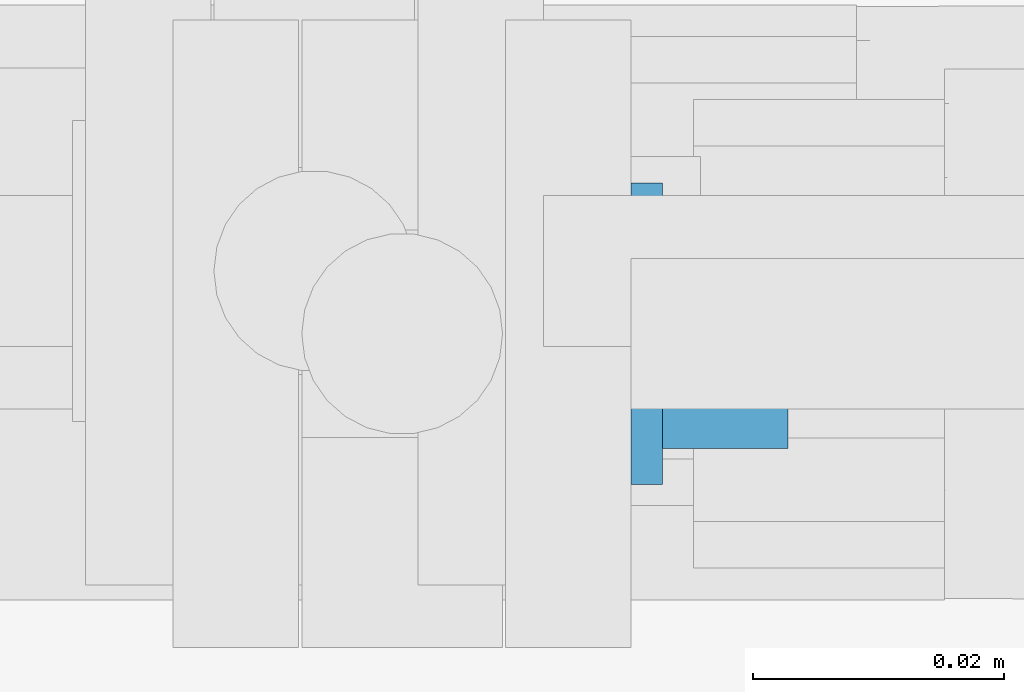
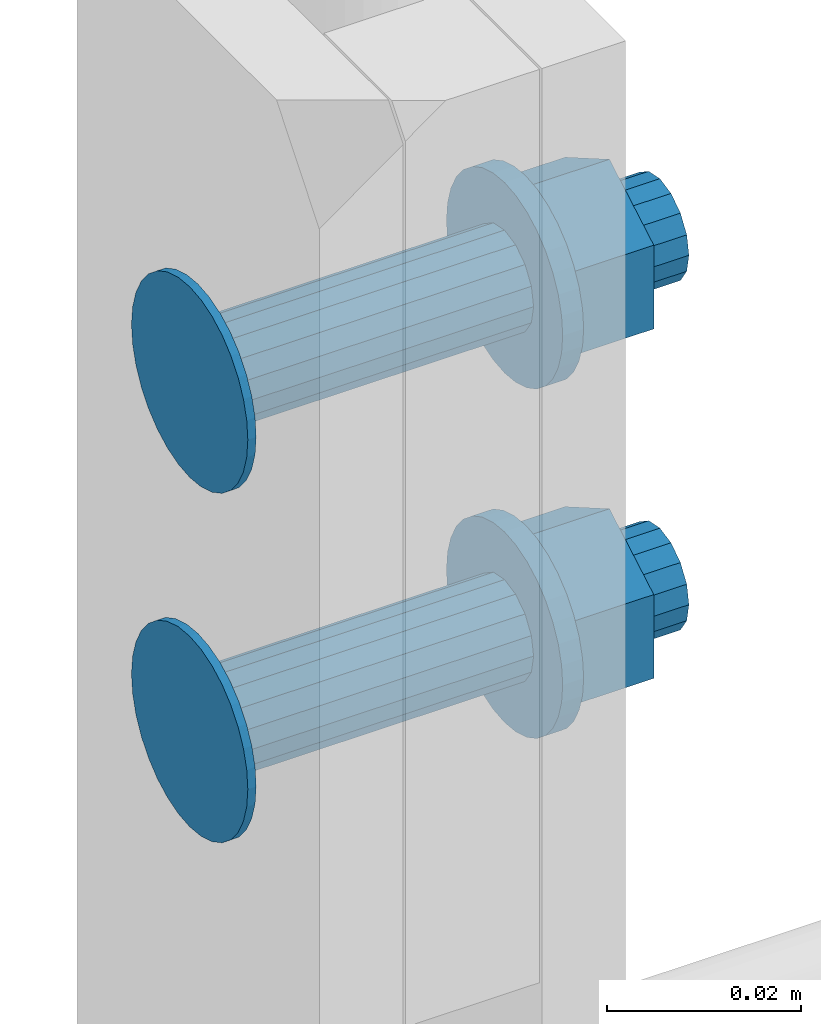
# One storey, part 91 of 98: 1 mechanical fastener.
"""IFC2X3 building model written with IfcOpenShell, lengths in millimetres."""

import ifcopenshell
import ifcopenshell.guid

model = None  # the IFC model being written
_history = None  # IfcOwnerHistory: only IFC2X3 demands one
_inside = {}  # id of a spatial element -> (the spatial element, [elements in it])
_under = {}  # id of a project, library or spatial element -> (it, [spatial elements below it])
_declared = {}  # id of a project -> (the project, [libraries it declares])
_typed = {}  # id of a type object -> (the type object, [elements of that type])
_made_of = {}  # id of a material, layer set ... -> (it, [elements and type objects made of it])


def new_model(schema):
    """Start an empty IFC model of exactly this schema.

    Asked for "IFC4X3", IfcOpenShell would pick the latest addendum, in which some entities
    have other attributes; the version numbers below select the first issue.
    IFC2X3 requires an IfcOwnerHistory on every rooted entity: one is made here for all.
    """
    global model, _history
    if schema == "IFC4X3":
        model = ifcopenshell.file(schema_version=(4, 3, 0, 0))
    else:
        model = ifcopenshell.file(schema=schema)
    _inside.clear()
    _under.clear()
    _declared.clear()
    _typed.clear()
    _made_of.clear()
    _history = None
    if model.schema == "IFC2X3":
        org = make("IfcOrganization", Name="unknown")
        user = make(
            "IfcPersonAndOrganization",
            ThePerson=make("IfcPerson", FamilyName="unknown"),
            TheOrganization=org,
        )
        app = make(
            "IfcApplication",
            ApplicationDeveloper=org,
            Version="unknown",
            ApplicationFullName="unknown",
            ApplicationIdentifier="unknown",
        )
        _history = make(
            "IfcOwnerHistory",
            OwningUser=user,
            OwningApplication=app,
            ChangeAction="ADDED",
            CreationDate=0,
        )
    return model


def make(cls, **values):
    """One entity of the class cls with the attributes given. An attribute that is None is left unset."""
    return model.create_entity(
        cls, **{name: value for name, value in values.items() if value is not None}
    )


def entity(cls, *values):
    """Any entity or typed value of the class cls, its attributes in the order of the schema. None: left unset."""
    e = model.create_entity(cls)
    for i, value in enumerate(values):
        if value is not None:
            e[i] = value
    return e


def rooted(cls, **values):
    """An entity with a GlobalId (a new one), such as an element, a storey or a relation."""
    return make(cls, GlobalId=ifcopenshell.guid.new(), OwnerHistory=_history, **values)


def si_unit(unit_type, name, prefix=None):
    """IfcSIUnit, for example si_unit("LENGTHUNIT", "METRE", prefix="MILLI")."""
    return make("IfcSIUnit", UnitType=unit_type, Prefix=prefix, Name=name)


def converted_unit(unit_type, name, factor, base, dimensions=None, offset=None):
    """IfcConversionBasedUnit, such as the inch: factor (a typed value) times the base unit."""
    return make(
        "IfcConversionBasedUnit"
        if offset is None
        else "IfcConversionBasedUnitWithOffset",
        ConversionOffset=offset,
        Dimensions=None
        if dimensions is None
        else entity("IfcDimensionalExponents", *dimensions),
        UnitType=unit_type,
        Name=name,
        ConversionFactor=make(
            "IfcMeasureWithUnit", ValueComponent=factor, UnitComponent=base
        ),
    )


def assignment(units):
    """IfcUnitAssignment: the units of a project."""
    return None if units is None else make("IfcUnitAssignment", Units=units)


def point(xyz):
    """IfcCartesianPoint."""
    return None if xyz is None else make("IfcCartesianPoint", Coordinates=xyz)


def direction(xyz):
    """IfcDirection."""
    return None if xyz is None else make("IfcDirection", DirectionRatios=xyz)


def frame(location, z_axis=None, x_axis=None):
    """IfcAxis2Placement3D, a coordinate frame: its origin and axes. An axis left out is left unset."""
    return make(
        "IfcAxis2Placement3D",
        Location=point(location),
        Axis=direction(z_axis),
        RefDirection=direction(x_axis),
    )


def origin_with_axes():
    """The frame at (0, 0, 0) with the z axis (0, 0, 1) and the x axis (1, 0, 0) written out."""
    return frame((0.0, 0.0, 0.0), z_axis=(0.0, 0.0, 1.0), x_axis=(1.0, 0.0, 0.0))


def place(relative_to, where):
    """IfcLocalPlacement: puts the frame where relative to a parent placement (None: the world)."""
    return make(
        "IfcLocalPlacement", PlacementRelTo=relative_to, RelativePlacement=where
    )


def context(
    kind, dimensions, precision=None, world=None, true_north=None, identifier=None
):
    """IfcGeometricRepresentationContext, for example the 3D "Model" context."""
    return make(
        "IfcGeometricRepresentationContext",
        ContextIdentifier=identifier,
        ContextType=kind,
        CoordinateSpaceDimension=dimensions,
        Precision=precision,
        WorldCoordinateSystem=world,
        TrueNorth=true_north,
    )


def project(units=None, contexts=None):
    """IfcProject with its units and contexts."""
    return rooted(
        "IfcProject",
        Name="project",
        RepresentationContexts=contexts,
        UnitsInContext=assignment(units),
    )


def spatial(cls, under=None, at=None, **own):
    """A site, building, storey or space (cls), placed at a placement, below another one or the project."""
    s = rooted(cls, ObjectPlacement=at, **own)
    if under is not None:
        _under.setdefault(under.id(), (under, []))[1].append(s)
    return s


def faces_of(points, faces, orient=None, outer=None):
    """IfcFace entities. A face is a list of loops; a loop is a list of indices into points, from 0.

    orient and outer hold one flag for each loop. By default every Orientation is true, the
    first loop of a face is its IfcFaceOuterBound and the others are IfcFaceBound.
    """
    made = []
    for i, loops in enumerate(faces):
        bounds = []
        for j, loop in enumerate(loops):
            is_outer = j == 0 if outer is None else outer[i][j]
            bounds.append(
                make(
                    "IfcFaceOuterBound" if is_outer else "IfcFaceBound",
                    Bound=make("IfcPolyLoop", Polygon=[points[k] for k in loop]),
                    Orientation=True if orient is None else orient[i][j],
                )
            )
        made.append(make("IfcFace", Bounds=bounds))
    return made


def faceted_brep(points, faces, orient=None, outer=None, voids=None):
    """IfcFacetedBrep: a solid bounded by flat faces; with voids (closed shells), ...WithVoids."""
    shared = [point(p) for p in points]
    hull = make("IfcClosedShell", CfsFaces=faces_of(shared, faces, orient, outer))
    if voids is None:
        return make("IfcFacetedBrep", Outer=hull)
    return make(
        "IfcFacetedBrepWithVoids",
        Outer=hull,
        Voids=[
            make(cls, CfsFaces=faces_of(shared, fs, o, b)) for cls, fs, o, b in voids
        ],
    )


def shape(context_of_items, identifier, shape_type, items):
    """IfcShapeRepresentation: the items that make up one representation, for example the "Body"."""
    return make(
        "IfcShapeRepresentation",
        ContextOfItems=context_of_items,
        RepresentationIdentifier=identifier,
        RepresentationType=shape_type,
        Items=items,
    )


def made_of(thing, what):
    """Note that an element or type object is made of a material, layer set ...; save() writes the relation."""
    if what is not None:
        _made_of.setdefault(what.id(), (what, []))[1].append(thing)
    return thing


def element(
    cls,
    number,
    at=None,
    inside=None,
    cuts=None,
    type_object=None,
    material=None,
    context=None,
    identifier="Body",
    shape_type=None,
    held_by="IfcProductDefinitionShape",
    body=None,
    shapes=None,
    **own,
):
    """One element of the class cls, such as IfcWall. Its Tag is "e" and its number.

    at: its placement. inside: the storey or other place that contains it. cuts: it is an
    opening in that element (IfcRelVoidsElement). A single representation is given by context,
    identifier, shape_type and body (its items); several are given by shapes. held_by: the class
    of the entity that holds the representations. save() writes the other relations.
    """
    e = rooted(cls, Tag="e%d" % number, ObjectPlacement=at, **own)
    if body is not None:
        shapes = [shape(context, identifier, shape_type, body)]
    if shapes is not None:
        e.Representation = make(held_by, Representations=shapes)
    if inside is not None:
        _inside.setdefault(inside.id(), (inside, []))[1].append(e)
    if cuts is not None:
        rooted(
            "IfcRelVoidsElement", RelatingBuildingElement=cuts, RelatedOpeningElement=e
        )
    if type_object is not None:
        _typed.setdefault(type_object.id(), (type_object, []))[1].append(e)
    return made_of(e, material)


def aggregate(whole, parts):
    """IfcRelAggregates: a whole, such as a stair, and the parts it consists of."""
    return rooted("IfcRelAggregates", RelatingObject=whole, RelatedObjects=parts)


def save(model, path):
    """Write the relations noted so far, then the file.

    IfcRelAggregates (storeys below a building ...), IfcRelContainedInSpatialStructure (elements
    in a storey), IfcRelDefinesByType, IfcRelAssociatesMaterial and IfcRelDeclares: one each for
    every whole, place, type object, material and project.
    """
    for whole, parts in _under.values():
        aggregate(whole, parts)
    for where, things in _inside.values():
        rooted(
            "IfcRelContainedInSpatialStructure",
            RelatedElements=things,
            RelatingStructure=where,
        )
    for kind, things in _typed.values():
        rooted("IfcRelDefinesByType", RelatedObjects=things, RelatingType=kind)
    for what, things in _made_of.values():
        rooted("IfcRelAssociatesMaterial", RelatedObjects=things, RelatingMaterial=what)
    for by, libraries in _declared.values():
        rooted("IfcRelDeclares", RelatingContext=by, RelatedDefinitions=libraries)
    model.write(path)


model = new_model("IFC2X3")

# Units and contexts
model_context = context("Model", 3, precision=1e-09, world=origin_with_axes())
ifc_project = project(units=[si_unit("LENGTHUNIT", "METRE", prefix="MILLI"), si_unit("AREAUNIT", "SQUARE_METRE"), si_unit("VOLUMEUNIT", "CUBIC_METRE"), converted_unit("PLANEANGLEUNIT", "DEGREE", entity("IfcPlaneAngleMeasure", 0.01745329), si_unit("PLANEANGLEUNIT", "RADIAN"), dimensions=[0, 0, 0, 0, 0, 0, 0])], contexts=[model_context])

# Site, building, storey
site_placement = place(None, origin_with_axes())
site = spatial("IfcSite", under=ifc_project, at=site_placement, Name="Maybachstra?e 2, 71563 Affalterbach", CompositionType="ELEMENT")
building_placement = place(site_placement, origin_with_axes())
building = spatial("IfcBuilding", under=site, at=building_placement, Name="Struktur 1", CompositionType="ELEMENT")
storey_placement = place(building_placement, origin_with_axes())
storey = spatial("IfcBuildingStorey", under=building, at=storey_placement, Name="Default Storey", CompositionType="ELEMENT", Elevation=0.0)

# Mechanical fastener
mechanical_fastener_placement = place(None, origin_with_axes())
element("IfcMechanicalFastener", 1, at=mechanical_fastener_placement, inside=storey, ObjectType="-", NominalDiameter=12.0, NominalLength=55.0, context=model_context, shape_type="Brep", body=[
    faceted_brep([(12125.779157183, -57.0, 7025.1), (12124.779157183, -57.0, 7025.1), (12124.779157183, -56.769423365, 7022.758916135), (12125.779157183, -56.769423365, 7022.758916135), (12124.779157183, -56.08655439, 7020.507798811), (12125.779157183, -56.08655439, 7020.507798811), (12124.779157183, -54.977635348, 7018.433157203), (12125.779157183, -54.977635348, 7018.433157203), (12124.779157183, -53.485281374, 7016.614718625), (12125.779157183, -53.485281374, 7016.614718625), (12124.779157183, -51.666842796, 7015.122364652), (12125.779157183, -51.666842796, 7015.122364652), (12124.779157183, -49.592201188, 7014.01344561), (12125.779157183, -49.592201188, 7014.01344561), (12124.779157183, -47.341083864, 7013.330576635), (12125.779157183, -47.341083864, 7013.330576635), (12124.779157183, -45.0, 7013.1), (12125.779157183, -45.0, 7013.1), (12124.779157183, -42.658916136, 7013.330576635), (12125.779157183, -42.658916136, 7013.330576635), (12124.779157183, -40.407798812, 7014.01344561), (12125.779157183, -40.407798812, 7014.01344561), (12124.779157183, -38.333157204, 7015.122364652), (12125.779157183, -38.333157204, 7015.122364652), (12124.779157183, -36.514718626, 7016.614718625), (12125.779157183, -36.514718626, 7016.614718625), (12124.779157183, -35.022364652, 7018.433157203), (12125.779157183, -35.022364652, 7018.433157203), (12124.779157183, -33.91344561, 7020.507798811), (12125.779157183, -33.91344561, 7020.507798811), (12124.779157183, -33.230576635, 7022.758916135), (12125.779157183, -33.230576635, 7022.758916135), (12124.779157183, -33.0, 7025.1), (12125.779157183, -33.0, 7025.1), (12124.779157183, -33.230576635, 7027.441083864), (12125.779157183, -33.230576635, 7027.441083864), (12124.779157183, -33.91344561, 7029.692201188), (12125.779157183, -33.91344561, 7029.692201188), (12124.779157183, -35.022364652, 7031.766842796), (12125.779157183, -35.022364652, 7031.766842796), (12124.779157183, -36.514718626, 7033.585281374), (12125.779157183, -36.514718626, 7033.585281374), (12124.779157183, -38.333157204, 7035.077635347), (12125.779157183, -38.333157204, 7035.077635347), (12124.779157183, -40.407798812, 7036.18655439), (12125.779157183, -40.407798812, 7036.18655439), (12124.779157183, -42.658916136, 7036.869423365), (12125.779157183, -42.658916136, 7036.869423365), (12124.779157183, -45.0, 7037.1), (12125.779157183, -45.0, 7037.1), (12124.779157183, -47.341083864, 7036.869423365), (12125.779157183, -47.341083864, 7036.869423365), (12124.779157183, -49.592201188, 7036.18655439), (12125.779157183, -49.592201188, 7036.18655439), (12124.779157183, -51.666842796, 7035.077635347), (12125.779157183, -51.666842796, 7035.077635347), (12124.779157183, -53.485281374, 7033.585281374), (12125.779157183, -53.485281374, 7033.585281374), (12124.779157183, -54.977635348, 7031.766842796), (12125.779157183, -54.977635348, 7031.766842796), (12124.779157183, -56.08655439, 7029.692201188), (12125.779157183, -56.08655439, 7029.692201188), (12124.779157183, -56.769423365, 7027.441083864), (12125.779157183, -56.769423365, 7027.441083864)], [[[0, 1, 2, 3]], [[3, 2, 4, 5]], [[5, 4, 6, 7]], [[7, 6, 8, 9]], [[9, 8, 10, 11]], [[11, 10, 12, 13]], [[13, 12, 14, 15]], [[15, 14, 16, 17]], [[17, 16, 18, 19]], [[19, 18, 20, 21]], [[21, 20, 22, 23]], [[23, 22, 24, 25]], [[25, 24, 26, 27]], [[27, 26, 28, 29]], [[29, 28, 30, 31]], [[31, 30, 32, 33]], [[33, 32, 34, 35]], [[35, 34, 36, 37]], [[37, 36, 38, 39]], [[39, 38, 40, 41]], [[41, 40, 42, 43]], [[43, 42, 44, 45]], [[45, 44, 46, 47]], [[47, 46, 48, 49]], [[49, 48, 50, 51]], [[51, 50, 52, 53]], [[53, 52, 54, 55]], [[55, 54, 56, 57]], [[57, 56, 58, 59]], [[59, 58, 60, 61]], [[61, 60, 62, 63]], [[63, 62, 1, 0]], [[2, 1, 62, 60, 58, 56, 54, 52, 50, 48, 46, 44, 42, 40, 38, 36, 34, 32, 30, 28, 26, 24, 22, 20, 18, 16, 14, 12, 10, 8, 6, 4]], [[63, 0, 3, 5, 7, 9, 11, 13, 15, 17, 19, 21, 23, 25, 27, 29, 31, 33, 35, 37, 39, 41, 43, 45, 47, 49, 51, 53, 55, 57, 59, 61]]]),
    faceted_brep([(12125.779157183, -57.0, 6981.1), (12124.779157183, -57.0, 6981.1), (12124.779157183, -56.769423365, 6978.758916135), (12125.779157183, -56.769423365, 6978.758916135), (12124.779157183, -56.08655439, 6976.507798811), (12125.779157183, -56.08655439, 6976.507798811), (12124.779157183, -54.977635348, 6974.433157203), (12125.779157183, -54.977635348, 6974.433157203), (12124.779157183, -53.485281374, 6972.614718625), (12125.779157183, -53.485281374, 6972.614718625), (12124.779157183, -51.666842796, 6971.122364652), (12125.779157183, -51.666842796, 6971.122364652), (12124.779157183, -49.592201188, 6970.01344561), (12125.779157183, -49.592201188, 6970.01344561), (12124.779157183, -47.341083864, 6969.330576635), (12125.779157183, -47.341083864, 6969.330576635), (12124.779157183, -45.0, 6969.1), (12125.779157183, -45.0, 6969.1), (12124.779157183, -42.658916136, 6969.330576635), (12125.779157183, -42.658916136, 6969.330576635), (12124.779157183, -40.407798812, 6970.01344561), (12125.779157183, -40.407798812, 6970.01344561), (12124.779157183, -38.333157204, 6971.122364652), (12125.779157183, -38.333157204, 6971.122364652), (12124.779157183, -36.514718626, 6972.614718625), (12125.779157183, -36.514718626, 6972.614718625), (12124.779157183, -35.022364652, 6974.433157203), (12125.779157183, -35.022364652, 6974.433157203), (12124.779157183, -33.91344561, 6976.507798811), (12125.779157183, -33.91344561, 6976.507798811), (12124.779157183, -33.230576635, 6978.758916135), (12125.779157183, -33.230576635, 6978.758916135), (12124.779157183, -33.0, 6981.1), (12125.779157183, -33.0, 6981.1), (12124.779157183, -33.230576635, 6983.441083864), (12125.779157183, -33.230576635, 6983.441083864), (12124.779157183, -33.91344561, 6985.692201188), (12125.779157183, -33.91344561, 6985.692201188), (12124.779157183, -35.022364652, 6987.766842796), (12125.779157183, -35.022364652, 6987.766842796), (12124.779157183, -36.514718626, 6989.585281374), (12125.779157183, -36.514718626, 6989.585281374), (12124.779157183, -38.333157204, 6991.077635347), (12125.779157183, -38.333157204, 6991.077635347), (12124.779157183, -40.407798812, 6992.18655439), (12125.779157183, -40.407798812, 6992.18655439), (12124.779157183, -42.658916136, 6992.869423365), (12125.779157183, -42.658916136, 6992.869423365), (12124.779157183, -45.0, 6993.1), (12125.779157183, -45.0, 6993.1), (12124.779157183, -47.341083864, 6992.869423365), (12125.779157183, -47.341083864, 6992.869423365), (12124.779157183, -49.592201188, 6992.18655439), (12125.779157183, -49.592201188, 6992.18655439), (12124.779157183, -51.666842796, 6991.077635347), (12125.779157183, -51.666842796, 6991.077635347), (12124.779157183, -53.485281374, 6989.585281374), (12125.779157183, -53.485281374, 6989.585281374), (12124.779157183, -54.977635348, 6987.766842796), (12125.779157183, -54.977635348, 6987.766842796), (12124.779157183, -56.08655439, 6985.692201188), (12125.779157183, -56.08655439, 6985.692201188), (12124.779157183, -56.769423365, 6983.441083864), (12125.779157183, -56.769423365, 6983.441083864)], [[[0, 1, 2, 3]], [[3, 2, 4, 5]], [[5, 4, 6, 7]], [[7, 6, 8, 9]], [[9, 8, 10, 11]], [[11, 10, 12, 13]], [[13, 12, 14, 15]], [[15, 14, 16, 17]], [[17, 16, 18, 19]], [[19, 18, 20, 21]], [[21, 20, 22, 23]], [[23, 22, 24, 25]], [[25, 24, 26, 27]], [[27, 26, 28, 29]], [[29, 28, 30, 31]], [[31, 30, 32, 33]], [[33, 32, 34, 35]], [[35, 34, 36, 37]], [[37, 36, 38, 39]], [[39, 38, 40, 41]], [[41, 40, 42, 43]], [[43, 42, 44, 45]], [[45, 44, 46, 47]], [[47, 46, 48, 49]], [[49, 48, 50, 51]], [[51, 50, 52, 53]], [[53, 52, 54, 55]], [[55, 54, 56, 57]], [[57, 56, 58, 59]], [[59, 58, 60, 61]], [[61, 60, 62, 63]], [[63, 62, 1, 0]], [[2, 1, 62, 60, 58, 56, 54, 52, 50, 48, 46, 44, 42, 40, 38, 36, 34, 32, 30, 28, 26, 24, 22, 20, 18, 16, 14, 12, 10, 8, 6, 4]], [[63, 0, 3, 5, 7, 9, 11, 13, 15, 17, 19, 21, 23, 25, 27, 29, 31, 33, 35, 37, 39, 41, 43, 45, 47, 49, 51, 53, 55, 57, 59, 61]]]),
    faceted_brep([(12162.279157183, -51.0, 7025.1), (12125.779157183, -51.0, 7025.1), (12125.779157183, -50.543277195, 7022.803899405), (12162.279157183, -50.543277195, 7022.803899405), (12125.779157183, -49.242640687, 7020.857359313), (12162.279157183, -49.242640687, 7020.857359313), (12125.779157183, -47.296100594, 7019.556722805), (12162.279157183, -47.296100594, 7019.556722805), (12125.779157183, -45.0, 7019.1), (12162.279157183, -45.0, 7019.1), (12125.779157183, -42.703899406, 7019.556722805), (12162.279157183, -42.703899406, 7019.556722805), (12125.779157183, -40.757359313, 7020.857359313), (12162.279157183, -40.757359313, 7020.857359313), (12125.779157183, -39.456722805, 7022.803899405), (12162.279157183, -39.456722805, 7022.803899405), (12125.779157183, -39.0, 7025.1), (12162.279157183, -39.0, 7025.1), (12125.779157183, -39.456722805, 7027.396100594), (12162.279157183, -39.456722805, 7027.396100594), (12125.779157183, -40.757359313, 7029.342640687), (12162.279157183, -40.757359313, 7029.342640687), (12125.779157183, -42.703899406, 7030.643277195), (12162.279157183, -42.703899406, 7030.643277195), (12125.779157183, -45.0, 7031.1), (12162.279157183, -45.0, 7031.1), (12125.779157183, -47.296100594, 7030.643277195), (12162.279157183, -47.296100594, 7030.643277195), (12125.779157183, -49.242640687, 7029.342640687), (12162.279157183, -49.242640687, 7029.342640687), (12125.779157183, -50.543277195, 7027.396100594), (12162.279157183, -50.543277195, 7027.396100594)], [[[0, 1, 2, 3]], [[3, 2, 4, 5]], [[5, 4, 6, 7]], [[7, 6, 8, 9]], [[9, 8, 10, 11]], [[11, 10, 12, 13]], [[13, 12, 14, 15]], [[15, 14, 16, 17]], [[17, 16, 18, 19]], [[19, 18, 20, 21]], [[21, 20, 22, 23]], [[23, 22, 24, 25]], [[25, 24, 26, 27]], [[27, 26, 28, 29]], [[29, 28, 30, 31]], [[31, 30, 1, 0]], [[2, 1, 30, 28, 26, 24, 22, 20, 18, 16, 14, 12, 10, 8, 6, 4]], [[31, 0, 3, 5, 7, 9, 11, 13, 15, 17, 19, 21, 23, 25, 27, 29]]]),
    faceted_brep([(12162.279157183, -51.0, 6981.1), (12125.779157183, -51.0, 6981.1), (12125.779157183, -50.543277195, 6978.803899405), (12162.279157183, -50.543277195, 6978.803899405), (12125.779157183, -49.242640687, 6976.857359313), (12162.279157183, -49.242640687, 6976.857359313), (12125.779157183, -47.296100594, 6975.556722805), (12162.279157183, -47.296100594, 6975.556722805), (12125.779157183, -45.0, 6975.1), (12162.279157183, -45.0, 6975.1), (12125.779157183, -42.703899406, 6975.556722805), (12162.279157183, -42.703899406, 6975.556722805), (12125.779157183, -40.757359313, 6976.857359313), (12162.279157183, -40.757359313, 6976.857359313), (12125.779157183, -39.456722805, 6978.803899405), (12162.279157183, -39.456722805, 6978.803899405), (12125.779157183, -39.0, 6981.1), (12162.279157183, -39.0, 6981.1), (12125.779157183, -39.456722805, 6983.396100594), (12162.279157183, -39.456722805, 6983.396100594), (12125.779157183, -40.757359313, 6985.342640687), (12162.279157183, -40.757359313, 6985.342640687), (12125.779157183, -42.703899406, 6986.643277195), (12162.279157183, -42.703899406, 6986.643277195), (12125.779157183, -45.0, 6987.1), (12162.279157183, -45.0, 6987.1), (12125.779157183, -47.296100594, 6986.643277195), (12162.279157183, -47.296100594, 6986.643277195), (12125.779157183, -49.242640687, 6985.342640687), (12162.279157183, -49.242640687, 6985.342640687), (12125.779157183, -50.543277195, 6983.396100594), (12162.279157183, -50.543277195, 6983.396100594)], [[[0, 1, 2, 3]], [[3, 2, 4, 5]], [[5, 4, 6, 7]], [[7, 6, 8, 9]], [[9, 8, 10, 11]], [[11, 10, 12, 13]], [[13, 12, 14, 15]], [[15, 14, 16, 17]], [[17, 16, 18, 19]], [[19, 18, 20, 21]], [[21, 20, 22, 23]], [[23, 22, 24, 25]], [[25, 24, 26, 27]], [[27, 26, 28, 29]], [[29, 28, 30, 31]], [[31, 30, 1, 0]], [[2, 1, 30, 28, 26, 24, 22, 20, 18, 16, 14, 12, 10, 8, 6, 4]], [[31, 0, 3, 5, 7, 9, 11, 13, 15, 17, 19, 21, 23, 25, 27, 29]]]),
    faceted_brep([(12164.779157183, -57.0, 7025.1), (12162.279157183, -57.0, 7025.1), (12162.279157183, -56.769423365, 7022.758916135), (12164.779157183, -56.769423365, 7022.758916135), (12162.279157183, -56.08655439, 7020.507798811), (12164.779157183, -56.08655439, 7020.507798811), (12162.279157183, -54.977635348, 7018.433157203), (12164.779157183, -54.977635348, 7018.433157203), (12162.279157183, -53.485281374, 7016.614718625), (12164.779157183, -53.485281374, 7016.614718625), (12162.279157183, -51.666842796, 7015.122364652), (12164.779157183, -51.666842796, 7015.122364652), (12162.279157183, -49.592201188, 7014.01344561), (12164.779157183, -49.592201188, 7014.01344561), (12162.279157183, -47.341083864, 7013.330576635), (12164.779157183, -47.341083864, 7013.330576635), (12162.279157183, -45.0, 7013.1), (12164.779157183, -45.0, 7013.1), (12162.279157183, -42.658916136, 7013.330576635), (12164.779157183, -42.658916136, 7013.330576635), (12162.279157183, -40.407798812, 7014.01344561), (12164.779157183, -40.407798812, 7014.01344561), (12162.279157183, -38.333157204, 7015.122364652), (12164.779157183, -38.333157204, 7015.122364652), (12162.279157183, -36.514718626, 7016.614718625), (12164.779157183, -36.514718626, 7016.614718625), (12162.279157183, -35.022364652, 7018.433157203), (12164.779157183, -35.022364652, 7018.433157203), (12162.279157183, -33.91344561, 7020.507798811), (12164.779157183, -33.91344561, 7020.507798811), (12162.279157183, -33.230576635, 7022.758916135), (12164.779157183, -33.230576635, 7022.758916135), (12162.279157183, -33.0, 7025.1), (12164.779157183, -33.0, 7025.1), (12162.279157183, -33.230576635, 7027.441083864), (12164.779157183, -33.230576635, 7027.441083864), (12162.279157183, -33.91344561, 7029.692201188), (12164.779157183, -33.91344561, 7029.692201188), (12162.279157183, -35.022364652, 7031.766842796), (12164.779157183, -35.022364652, 7031.766842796), (12162.279157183, -36.514718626, 7033.585281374), (12164.779157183, -36.514718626, 7033.585281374), (12162.279157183, -38.333157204, 7035.077635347), (12164.779157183, -38.333157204, 7035.077635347), (12162.279157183, -40.407798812, 7036.18655439), (12164.779157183, -40.407798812, 7036.18655439), (12162.279157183, -42.658916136, 7036.869423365), (12164.779157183, -42.658916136, 7036.869423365), (12162.279157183, -45.0, 7037.1), (12164.779157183, -45.0, 7037.1), (12162.279157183, -47.341083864, 7036.869423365), (12164.779157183, -47.341083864, 7036.869423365), (12162.279157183, -49.592201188, 7036.18655439), (12164.779157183, -49.592201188, 7036.18655439), (12162.279157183, -51.666842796, 7035.077635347), (12164.779157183, -51.666842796, 7035.077635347), (12162.279157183, -53.485281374, 7033.585281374), (12164.779157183, -53.485281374, 7033.585281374), (12162.279157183, -54.977635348, 7031.766842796), (12164.779157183, -54.977635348, 7031.766842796), (12162.279157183, -56.08655439, 7029.692201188), (12164.779157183, -56.08655439, 7029.692201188), (12162.279157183, -56.769423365, 7027.441083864), (12164.779157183, -56.769423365, 7027.441083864)], [[[0, 1, 2, 3]], [[3, 2, 4, 5]], [[5, 4, 6, 7]], [[7, 6, 8, 9]], [[9, 8, 10, 11]], [[11, 10, 12, 13]], [[13, 12, 14, 15]], [[15, 14, 16, 17]], [[17, 16, 18, 19]], [[19, 18, 20, 21]], [[21, 20, 22, 23]], [[23, 22, 24, 25]], [[25, 24, 26, 27]], [[27, 26, 28, 29]], [[29, 28, 30, 31]], [[31, 30, 32, 33]], [[33, 32, 34, 35]], [[35, 34, 36, 37]], [[37, 36, 38, 39]], [[39, 38, 40, 41]], [[41, 40, 42, 43]], [[43, 42, 44, 45]], [[45, 44, 46, 47]], [[47, 46, 48, 49]], [[49, 48, 50, 51]], [[51, 50, 52, 53]], [[53, 52, 54, 55]], [[55, 54, 56, 57]], [[57, 56, 58, 59]], [[59, 58, 60, 61]], [[61, 60, 62, 63]], [[63, 62, 1, 0]], [[2, 1, 62, 60, 58, 56, 54, 52, 50, 48, 46, 44, 42, 40, 38, 36, 34, 32, 30, 28, 26, 24, 22, 20, 18, 16, 14, 12, 10, 8, 6, 4]], [[63, 0, 3, 5, 7, 9, 11, 13, 15, 17, 19, 21, 23, 25, 27, 29, 31, 33, 35, 37, 39, 41, 43, 45, 47, 49, 51, 53, 55, 57, 59, 61]]]),
    faceted_brep([(12164.779157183, -57.0, 6981.1), (12162.279157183, -57.0, 6981.1), (12162.279157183, -56.769423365, 6978.758916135), (12164.779157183, -56.769423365, 6978.758916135), (12162.279157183, -56.08655439, 6976.507798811), (12164.779157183, -56.08655439, 6976.507798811), (12162.279157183, -54.977635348, 6974.433157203), (12164.779157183, -54.977635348, 6974.433157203), (12162.279157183, -53.485281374, 6972.614718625), (12164.779157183, -53.485281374, 6972.614718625), (12162.279157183, -51.666842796, 6971.122364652), (12164.779157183, -51.666842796, 6971.122364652), (12162.279157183, -49.592201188, 6970.01344561), (12164.779157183, -49.592201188, 6970.01344561), (12162.279157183, -47.341083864, 6969.330576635), (12164.779157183, -47.341083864, 6969.330576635), (12162.279157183, -45.0, 6969.1), (12164.779157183, -45.0, 6969.1), (12162.279157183, -42.658916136, 6969.330576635), (12164.779157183, -42.658916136, 6969.330576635), (12162.279157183, -40.407798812, 6970.01344561), (12164.779157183, -40.407798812, 6970.01344561), (12162.279157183, -38.333157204, 6971.122364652), (12164.779157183, -38.333157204, 6971.122364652), (12162.279157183, -36.514718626, 6972.614718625), (12164.779157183, -36.514718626, 6972.614718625), (12162.279157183, -35.022364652, 6974.433157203), (12164.779157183, -35.022364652, 6974.433157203), (12162.279157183, -33.91344561, 6976.507798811), (12164.779157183, -33.91344561, 6976.507798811), (12162.279157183, -33.230576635, 6978.758916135), (12164.779157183, -33.230576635, 6978.758916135), (12162.279157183, -33.0, 6981.1), (12164.779157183, -33.0, 6981.1), (12162.279157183, -33.230576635, 6983.441083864), (12164.779157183, -33.230576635, 6983.441083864), (12162.279157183, -33.91344561, 6985.692201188), (12164.779157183, -33.91344561, 6985.692201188), (12162.279157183, -35.022364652, 6987.766842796), (12164.779157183, -35.022364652, 6987.766842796), (12162.279157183, -36.514718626, 6989.585281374), (12164.779157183, -36.514718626, 6989.585281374), (12162.279157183, -38.333157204, 6991.077635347), (12164.779157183, -38.333157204, 6991.077635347), (12162.279157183, -40.407798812, 6992.18655439), (12164.779157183, -40.407798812, 6992.18655439), (12162.279157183, -42.658916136, 6992.869423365), (12164.779157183, -42.658916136, 6992.869423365), (12162.279157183, -45.0, 6993.1), (12164.779157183, -45.0, 6993.1), (12162.279157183, -47.341083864, 6992.869423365), (12164.779157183, -47.341083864, 6992.869423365), (12162.279157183, -49.592201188, 6992.18655439), (12164.779157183, -49.592201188, 6992.18655439), (12162.279157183, -51.666842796, 6991.077635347), (12164.779157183, -51.666842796, 6991.077635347), (12162.279157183, -53.485281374, 6989.585281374), (12164.779157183, -53.485281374, 6989.585281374), (12162.279157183, -54.977635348, 6987.766842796), (12164.779157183, -54.977635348, 6987.766842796), (12162.279157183, -56.08655439, 6985.692201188), (12164.779157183, -56.08655439, 6985.692201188), (12162.279157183, -56.769423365, 6983.441083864), (12164.779157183, -56.769423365, 6983.441083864)], [[[0, 1, 2, 3]], [[3, 2, 4, 5]], [[5, 4, 6, 7]], [[7, 6, 8, 9]], [[9, 8, 10, 11]], [[11, 10, 12, 13]], [[13, 12, 14, 15]], [[15, 14, 16, 17]], [[17, 16, 18, 19]], [[19, 18, 20, 21]], [[21, 20, 22, 23]], [[23, 22, 24, 25]], [[25, 24, 26, 27]], [[27, 26, 28, 29]], [[29, 28, 30, 31]], [[31, 30, 32, 33]], [[33, 32, 34, 35]], [[35, 34, 36, 37]], [[37, 36, 38, 39]], [[39, 38, 40, 41]], [[41, 40, 42, 43]], [[43, 42, 44, 45]], [[45, 44, 46, 47]], [[47, 46, 48, 49]], [[49, 48, 50, 51]], [[51, 50, 52, 53]], [[53, 52, 54, 55]], [[55, 54, 56, 57]], [[57, 56, 58, 59]], [[59, 58, 60, 61]], [[61, 60, 62, 63]], [[63, 62, 1, 0]], [[2, 1, 62, 60, 58, 56, 54, 52, 50, 48, 46, 44, 42, 40, 38, 36, 34, 32, 30, 28, 26, 24, 22, 20, 18, 16, 14, 12, 10, 8, 6, 4]], [[63, 0, 3, 5, 7, 9, 11, 13, 15, 17, 19, 21, 23, 25, 27, 29, 31, 33, 35, 37, 39, 41, 43, 45, 47, 49, 51, 53, 55, 57, 59, 61]]]),
    faceted_brep([(12164.779157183, -35.86343199, 7019.825), (12174.779157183, -35.86343199, 7019.825), (12174.779157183, -45.0, 7014.55), (12164.779157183, -45.0, 7014.55), (12174.779157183, -54.13656801, 7019.825), (12164.779157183, -54.13656801, 7019.825), (12174.779157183, -54.13656801, 7030.375), (12164.779157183, -54.13656801, 7030.375), (12174.779157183, -45.0, 7035.65), (12164.779157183, -45.0, 7035.65), (12174.779157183, -35.86343199, 7030.375), (12164.779157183, -35.86343199, 7030.375)], [[[0, 1, 2, 3]], [[3, 2, 4, 5]], [[5, 4, 6, 7]], [[7, 6, 8, 9]], [[9, 8, 10, 11]], [[11, 10, 1, 0]], [[3, 5, 7, 9, 11, 0]], [[2, 1, 10, 8, 6, 4]]]),
    faceted_brep([(12164.779157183, -35.86343199, 6975.825), (12174.779157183, -35.86343199, 6975.825), (12174.779157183, -45.0, 6970.55), (12164.779157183, -45.0, 6970.55), (12174.779157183, -54.13656801, 6975.825), (12164.779157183, -54.13656801, 6975.825), (12174.779157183, -54.13656801, 6986.375), (12164.779157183, -54.13656801, 6986.375), (12174.779157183, -45.0, 6991.65), (12164.779157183, -45.0, 6991.65), (12174.779157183, -35.86343199, 6986.375), (12164.779157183, -35.86343199, 6986.375)], [[[0, 1, 2, 3]], [[3, 2, 4, 5]], [[5, 4, 6, 7]], [[7, 6, 8, 9]], [[9, 8, 10, 11]], [[11, 10, 1, 0]], [[3, 5, 7, 9, 11, 0]], [[2, 1, 10, 8, 6, 4]]]),
    faceted_brep([(12180.779157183, -51.0, 7025.1), (12174.779157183, -51.0, 7025.1), (12174.779157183, -50.543277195, 7022.803899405), (12180.779157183, -50.543277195, 7022.803899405), (12174.779157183, -49.242640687, 7020.857359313), (12180.779157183, -49.242640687, 7020.857359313), (12174.779157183, -47.296100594, 7019.556722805), (12180.779157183, -47.296100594, 7019.556722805), (12174.779157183, -45.0, 7019.1), (12180.779157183, -45.0, 7019.1), (12174.779157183, -42.703899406, 7019.556722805), (12180.779157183, -42.703899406, 7019.556722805), (12174.779157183, -40.757359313, 7020.857359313), (12180.779157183, -40.757359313, 7020.857359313), (12174.779157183, -39.456722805, 7022.803899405), (12180.779157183, -39.456722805, 7022.803899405), (12174.779157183, -39.0, 7025.1), (12180.779157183, -39.0, 7025.1), (12174.779157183, -39.456722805, 7027.396100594), (12180.779157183, -39.456722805, 7027.396100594), (12174.779157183, -40.757359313, 7029.342640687), (12180.779157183, -40.757359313, 7029.342640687), (12174.779157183, -42.703899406, 7030.643277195), (12180.779157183, -42.703899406, 7030.643277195), (12174.779157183, -45.0, 7031.1), (12180.779157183, -45.0, 7031.1), (12174.779157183, -47.296100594, 7030.643277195), (12180.779157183, -47.296100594, 7030.643277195), (12174.779157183, -49.242640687, 7029.342640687), (12180.779157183, -49.242640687, 7029.342640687), (12174.779157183, -50.543277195, 7027.396100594), (12180.779157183, -50.543277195, 7027.396100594)], [[[0, 1, 2, 3]], [[3, 2, 4, 5]], [[5, 4, 6, 7]], [[7, 6, 8, 9]], [[9, 8, 10, 11]], [[11, 10, 12, 13]], [[13, 12, 14, 15]], [[15, 14, 16, 17]], [[17, 16, 18, 19]], [[19, 18, 20, 21]], [[21, 20, 22, 23]], [[23, 22, 24, 25]], [[25, 24, 26, 27]], [[27, 26, 28, 29]], [[29, 28, 30, 31]], [[31, 30, 1, 0]], [[2, 1, 30, 28, 26, 24, 22, 20, 18, 16, 14, 12, 10, 8, 6, 4]], [[31, 0, 3, 5, 7, 9, 11, 13, 15, 17, 19, 21, 23, 25, 27, 29]]]),
    faceted_brep([(12180.779157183, -51.0, 6981.1), (12174.779157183, -51.0, 6981.1), (12174.779157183, -50.543277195, 6978.803899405), (12180.779157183, -50.543277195, 6978.803899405), (12174.779157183, -49.242640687, 6976.857359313), (12180.779157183, -49.242640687, 6976.857359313), (12174.779157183, -47.296100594, 6975.556722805), (12180.779157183, -47.296100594, 6975.556722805), (12174.779157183, -45.0, 6975.1), (12180.779157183, -45.0, 6975.1), (12174.779157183, -42.703899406, 6975.556722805), (12180.779157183, -42.703899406, 6975.556722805), (12174.779157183, -40.757359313, 6976.857359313), (12180.779157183, -40.757359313, 6976.857359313), (12174.779157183, -39.456722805, 6978.803899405), (12180.779157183, -39.456722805, 6978.803899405), (12174.779157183, -39.0, 6981.1), (12180.779157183, -39.0, 6981.1), (12174.779157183, -39.456722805, 6983.396100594), (12180.779157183, -39.456722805, 6983.396100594), (12174.779157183, -40.757359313, 6985.342640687), (12180.779157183, -40.757359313, 6985.342640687), (12174.779157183, -42.703899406, 6986.643277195), (12180.779157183, -42.703899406, 6986.643277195), (12174.779157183, -45.0, 6987.1), (12180.779157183, -45.0, 6987.1), (12174.779157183, -47.296100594, 6986.643277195), (12180.779157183, -47.296100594, 6986.643277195), (12174.779157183, -49.242640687, 6985.342640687), (12180.779157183, -49.242640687, 6985.342640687), (12174.779157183, -50.543277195, 6983.396100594), (12180.779157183, -50.543277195, 6983.396100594)], [[[0, 1, 2, 3]], [[3, 2, 4, 5]], [[5, 4, 6, 7]], [[7, 6, 8, 9]], [[9, 8, 10, 11]], [[11, 10, 12, 13]], [[13, 12, 14, 15]], [[15, 14, 16, 17]], [[17, 16, 18, 19]], [[19, 18, 20, 21]], [[21, 20, 22, 23]], [[23, 22, 24, 25]], [[25, 24, 26, 27]], [[27, 26, 28, 29]], [[29, 28, 30, 31]], [[31, 30, 1, 0]], [[2, 1, 30, 28, 26, 24, 22, 20, 18, 16, 14, 12, 10, 8, 6, 4]], [[31, 0, 3, 5, 7, 9, 11, 13, 15, 17, 19, 21, 23, 25, 27, 29]]]),
])

save(model, "model.ifc")
